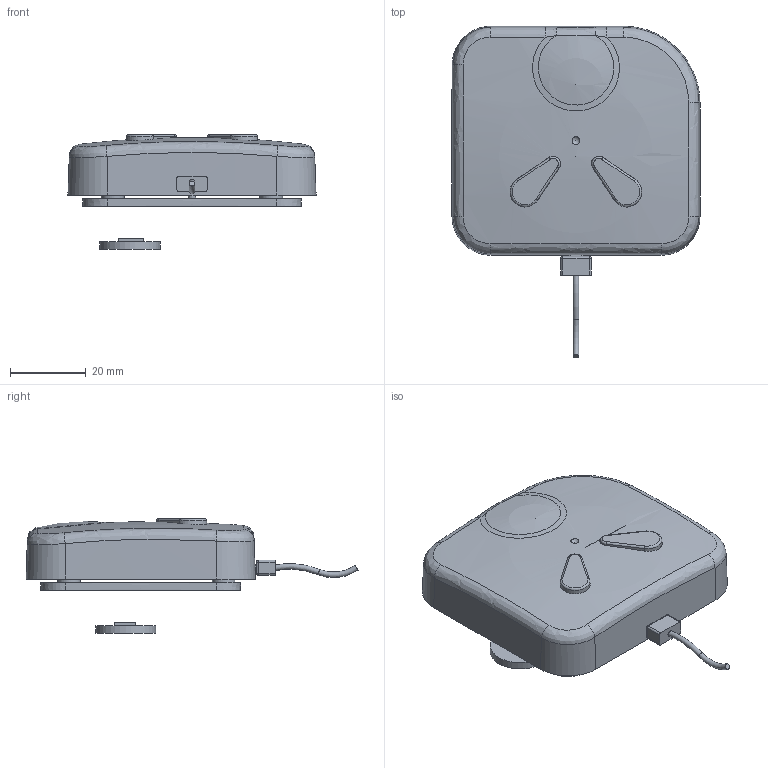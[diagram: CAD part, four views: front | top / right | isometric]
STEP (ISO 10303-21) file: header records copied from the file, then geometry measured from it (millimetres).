
FILE_DESCRIPTION(/* description */ (''),/* implementation_level */ '2;1');
FILE_NAME(/* name */ '教师组样题7.stp',/* time_stamp */ '2023-04-15T10:52:30+08:00',/* author */ (''),/* organization */ (''),/* preprocessor_version */ 'ST-DEVELOPER v16.7',/* originating_system */ 'SIEMENS PLM Software NX 12.0',/* authorisation */ '');
FILE_SCHEMA (('AUTOMOTIVE_DESIGN { 1 0 10303 214 3 1 1 1 }'));
Length unit declared in the file: millimetre
Products named in the file (1): 教师组样题7_stp
Bounding box: 65.73 x 87.92 x 30.39 mm (x, y, z)
Volume: 20270.2 mm3; surface area: 21866.8 mm2
Topology: 6 solids, 6 shells, 203 faces, 509 edges, 315 vertices
Faces by surface type: bspline 66, plane 57, cylinder 43, sphere 13, extrusion 12, torus 11, revolution 1
Full cylindrical faces by diameter (mm): 2 x1, 2.2 x1, 3 x4, 4 x4, 6 x4, 16 x1
Entity records: 9949 total; most frequent: CARTESIAN_POINT 5814, ORIENTED_EDGE 904, DIRECTION 604, EDGE_CURVE 452, VERTEX_POINT 291, EDGE_LOOP 247, AXIS2_PLACEMENT_3D 231, B_SPLINE_CURVE_WITH_KNOTS 211
